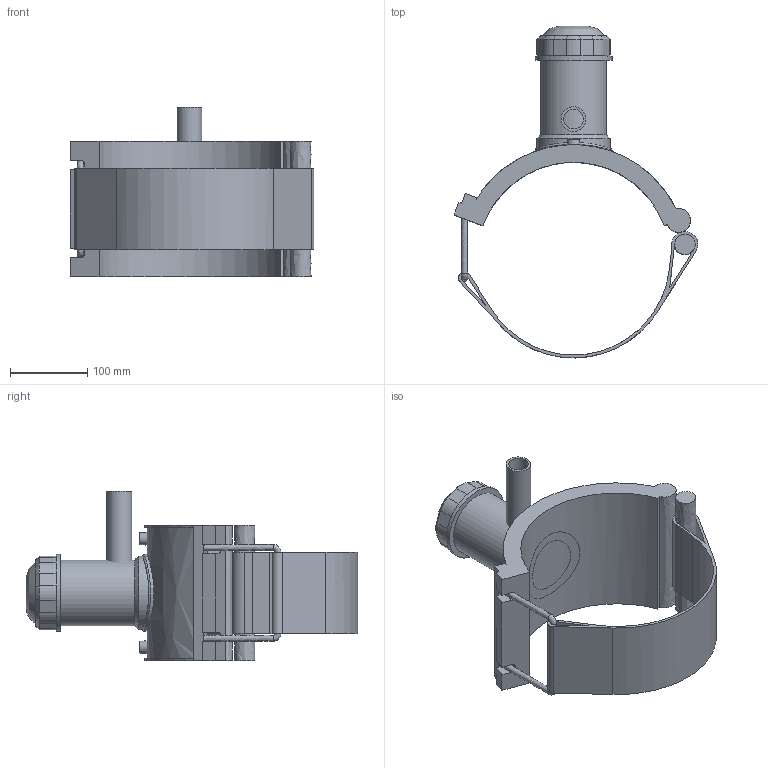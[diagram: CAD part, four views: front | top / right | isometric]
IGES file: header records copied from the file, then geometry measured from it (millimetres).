
Global section: file name: 4963P4250032; native system: Autodesk Inventor 2019; preprocessor: unknown; author: KIM; date: 20220317.113305; units: millimetre
Bounding box: 316.47 x 430.73 x 220 mm (x, y, z)
Volume: 2366015.5 mm3; surface area: 423143.6 mm2
Topology: 3 solids, 3 shells, 118 faces, 297 edges, 193 vertices
Faces by surface type: bspline 118
